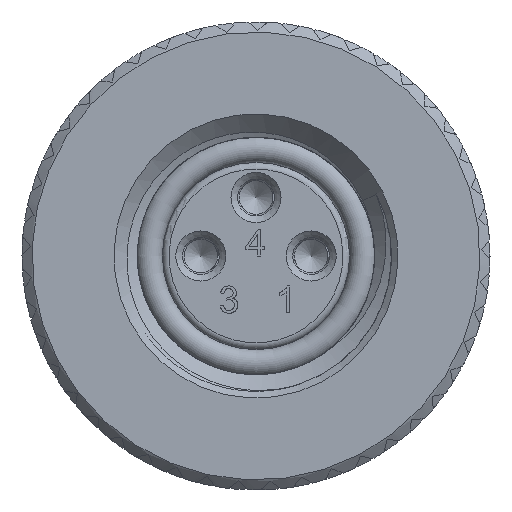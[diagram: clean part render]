
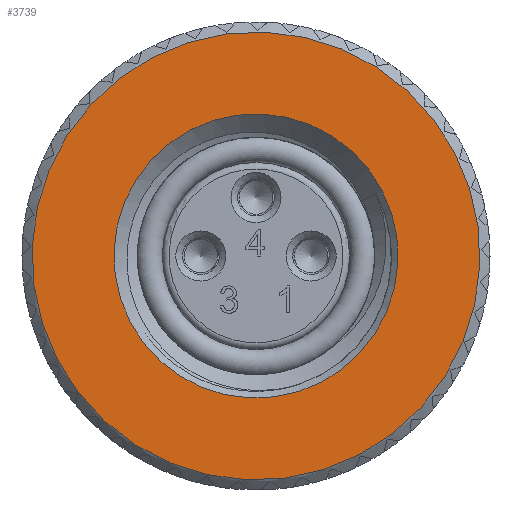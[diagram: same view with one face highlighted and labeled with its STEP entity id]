
A CAD part, left-side view. The second image highlights one B-rep face of the part: STEP entity #3739.
In plain terms, the highlighted planar face has unit normal (-1, 0, 0).
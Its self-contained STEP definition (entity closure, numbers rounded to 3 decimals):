
#3739=ADVANCED_FACE('',(#4409,#4410),#4159,.F.);
#4159=PLANE('',#13259);
#4409=FACE_BOUND('',#4981,.T.);
#4410=FACE_BOUND('',#4982,.T.);
#4981=EDGE_LOOP('',(#7926));
#4982=EDGE_LOOP('',(#7927));
#7926=ORIENTED_EDGE('',*,*,#11635,.T.);
#7927=ORIENTED_EDGE('',*,*,#11194,.T.);
#9639=VERTEX_POINT('',#28461);
#9936=VERTEX_POINT('',#30938);
#11194=EDGE_CURVE('',#9639,#9639,#12186,.T.);
#11635=EDGE_CURVE('',#9936,#9936,#12335,.T.);
#12186=CIRCLE('',#13011,6.7);
#12335=CIRCLE('',#13258,4.25);
#13011=AXIS2_PLACEMENT_3D('',#28460,#15156,#15157);
#13258=AXIS2_PLACEMENT_3D('',#30937,#15741,#15742);
#13259=AXIS2_PLACEMENT_3D('',#30939,#15743,#15744);
#15156=DIRECTION('',(-1.,0.,0.));
#15157=DIRECTION('',(0.,-0.924,-0.382));
#15741=DIRECTION('',(1.,0.,0.));
#15742=DIRECTION('',(0.,-0.924,-0.382));
#15743=DIRECTION('',(1.,0.,0.));
#15744=DIRECTION('',(0.,-0.924,-0.382));
#28460=CARTESIAN_POINT('',(7.5,0.,0.));
#28461=CARTESIAN_POINT('',(7.5,-6.192,-2.558));
#30937=CARTESIAN_POINT('',(7.5,0.,0.));
#30938=CARTESIAN_POINT('',(7.5,-3.928,-1.623));
#30939=CARTESIAN_POINT('',(7.5,6.47,2.673));
